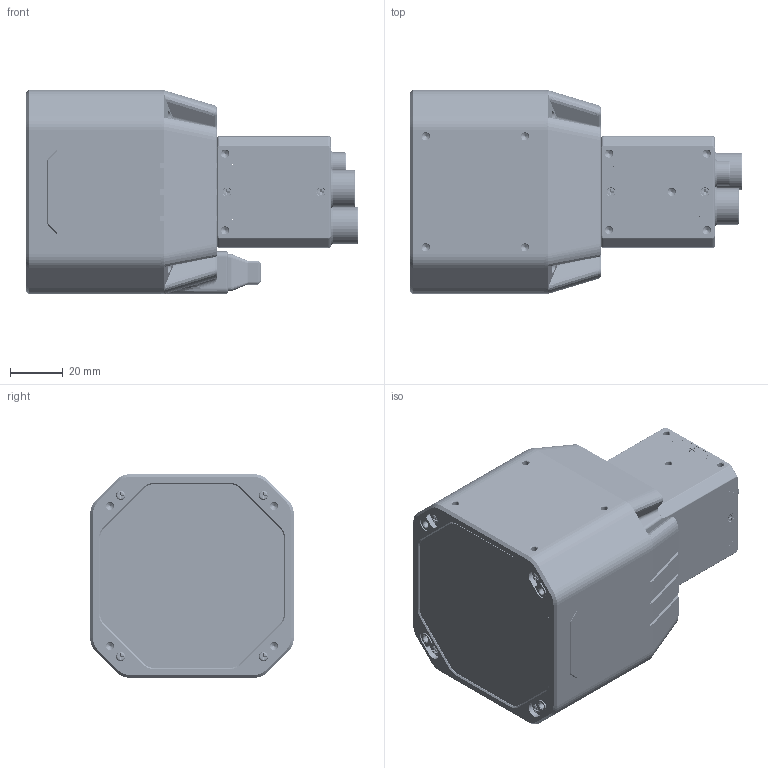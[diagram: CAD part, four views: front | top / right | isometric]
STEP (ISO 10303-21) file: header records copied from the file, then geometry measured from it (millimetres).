
FILE_DESCRIPTION((''),'2;1');
FILE_NAME('00-MV-CT050G-24GMC01-MAX_ASM','2026-06-01T11:16:33',('xujianping6'),(''),'CREO PARAMETRIC BY PTC INC, 2020044','CREO PARAMETRIC BY PTC INC, 2020044','');
FILE_SCHEMA(('CONFIG_CONTROL_DESIGN'));
Products named in the file (33): QIANGAI-NAA-MAX; LVGUANGPIAN; LGP_YABAN; QIANDUANZUJIAN-MAX_ASM; ZHONGKUANG-MAX; ZHONGKUANGZUJIAN-MAX_ASM; HOUGAI-MAX; PCB-MV-23517-REV10; 100600296; SGN-M12-NEW3-20241128; SGN-M8-NEWS5-20241205; MV-23517-REV10_ASM; MV-ZHUBAN-REV10_ASM; BANJINZHIJIA-FPC-ASM_ASM; PCB-MV-JIEKOUBAN-MAX-REV10; CNT-MAX-M12-20241220_ASM; ORING-7D5-1D5; MV-JIEKOUBAN-MAX-REV10_ASM; D-01-35-26-0837; SC-T1M2X4NL-B; HOUGAIZUJIAN-MAX_ASM; MIFENGDIZUO-NEW; MIFENGZHONGKUANG-NEW; MIFENGSHANGGAI-NEW; DE-20-000155_ASM; DB_GAIPIAN-MAX; SC-PM2X4_5-NI; SC-PM2X10-NI-NEW; SR-KAKOU; SR-M10-ASM_ASM; JINGTOUZHAO-MAX_ASM; DE-19-001087; 00-MV-CT050G-24GMC01-MAX_ASM
Assembly tree (58 placements, depth 5):
  00-MV-CT050G-24GMC01-MAX_ASM
    QIANDUANZUJIAN-MAX_ASM
      QIANGAI-NAA-MAX
      LVGUANGPIAN
      LGP_YABAN
    ZHONGKUANGZUJIAN-MAX_ASM
      ZHONGKUANG-MAX
    HOUGAIZUJIAN-MAX_ASM
      HOUGAI-MAX
      MV-ZHUBAN-REV10_ASM
        MV-23517-REV10_ASM
          PCB-MV-23517-REV10
          100600296
          SGN-M12-NEW3-20241128
          SGN-M8-NEWS5-20241205
      BANJINZHIJIA-FPC-ASM_ASM
      MV-JIEKOUBAN-MAX-REV10_ASM
        PCB-MV-JIEKOUBAN-MAX-REV10
        CNT-MAX-M12-20241220_ASM
        ORING-7D5-1D5
      D-01-35-26-0837
      SC-T1M2X4NL-B  x2
    JINGTOUZHAO-MAX_ASM
      MIFENGDIZUO-NEW
      MIFENGZHONGKUANG-NEW
      MIFENGSHANGGAI-NEW
      DE-20-000155_ASM
      DB_GAIPIAN-MAX
      SC-PM2X4_5-NI  x8
      SC-PM2X10-NI-NEW  x4
      SR-M10-ASM_ASM
        SR-KAKOU
    DE-19-001087  x16
Bounding box: 125.6 x 77 x 77 mm (x, y, z)
Volume: 130272.5 mm3; surface area: 103655.6 mm2
Topology: 47 solids, 168 shells, 5690 faces, 14843 edges, 9491 vertices
Faces by surface type: plane 2583, cylinder 2094, cone 612, torus 159, bspline 146, extrusion 74, sphere 22
Entity records: 156727 total; most frequent: CARTESIAN_POINT 44521, DIRECTION 23844, ORIENTED_EDGE 22992, EDGE_CURVE 11657, AXIS2_PLACEMENT_3D 8872, VERTEX_POINT 7612, VECTOR 6100, LINE 6026
